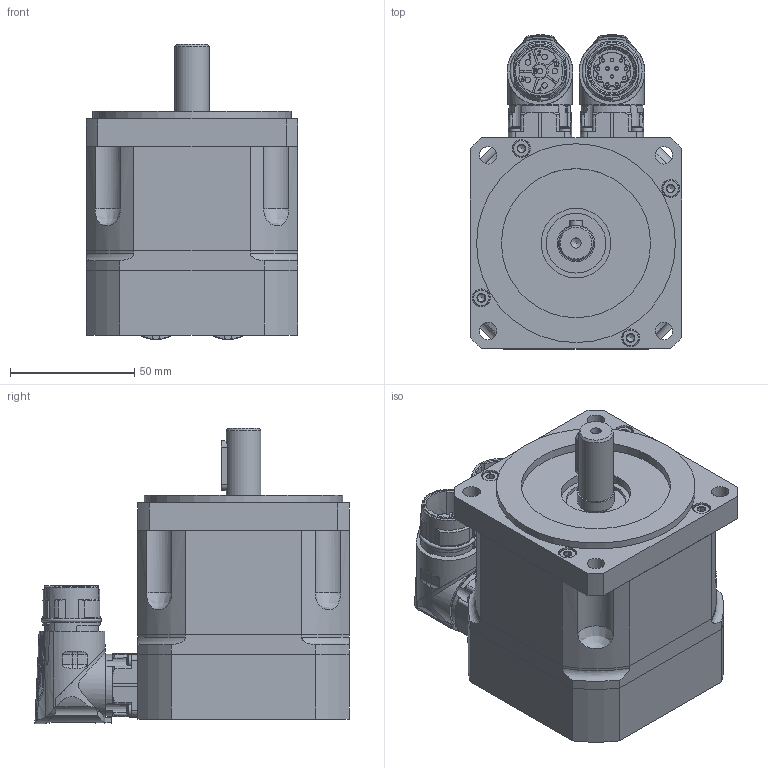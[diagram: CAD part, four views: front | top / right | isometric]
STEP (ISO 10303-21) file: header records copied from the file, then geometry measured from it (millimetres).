
FILE_DESCRIPTION(/* description */ (''),/* implementation_level */ '2;1');
FILE_NAME(/* name */ 'C:\Users\Public\Documents\Autodesk\Inventor LT 2014\Workspace\Motori Sito WEB\TG_COMPATTI\STEP_COMPATTI\DSM5_30_x097.stp',/* time_stamp */ '2021-03-27T09:29:22+01:00',/* author */ ('marcor'),/* organization */ (''),/* preprocessor_version */ 'ST-DEVELOPER v15.2',/* originating_system */ 'Autodesk Inventor LT ',/* authorisation */ '');
FILE_SCHEMA (('AUTOMOTIVE_DESIGN { 1 0 10303 214 3 1 1 }'));
Products named in the file (1): DSM5_30_x097
Bounding box: 85 x 126.5 x 118.81 mm (x, y, z)
Volume: 653057.2 mm3; surface area: 112983.2 mm2
Topology: 16 solids, 26 shells, 1428 faces, 3713 edges, 2471 vertices
Faces by surface type: plane 525, cylinder 436, cone 247, bspline 117, torus 75, sphere 28
Full cylindrical faces by diameter (mm): 1.2 x12, 2.224 x8, 2.233 x6, 2.5 x8, 2.88 x8, 3.242 x12, 3.26 x8, 4 x12, 4.134 x1, 4.5 x14, 4.8 x8, 5.5 x3, 5.9 x2, 7 x16, 7.2 x8, 7.5 x4, 13.8 x1, 14 x1, 14.98 x1, 15.2 x1, 17.4 x3, 18 x1, 19.8 x1, 21.15 x4, 21.6 x1, 21.653 x2, 24 x1, 24.3 x2, 28 x1, 35 x2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
Entity records: 50952 total; most frequent: CARTESIAN_POINT 17858, ORIENTED_EDGE 6554, DIRECTION 6083, EDGE_CURVE 3277, AXIS2_PLACEMENT_3D 2494, VERTEX_POINT 2359, EDGE_LOOP 1944, ADVANCED_FACE 1428
